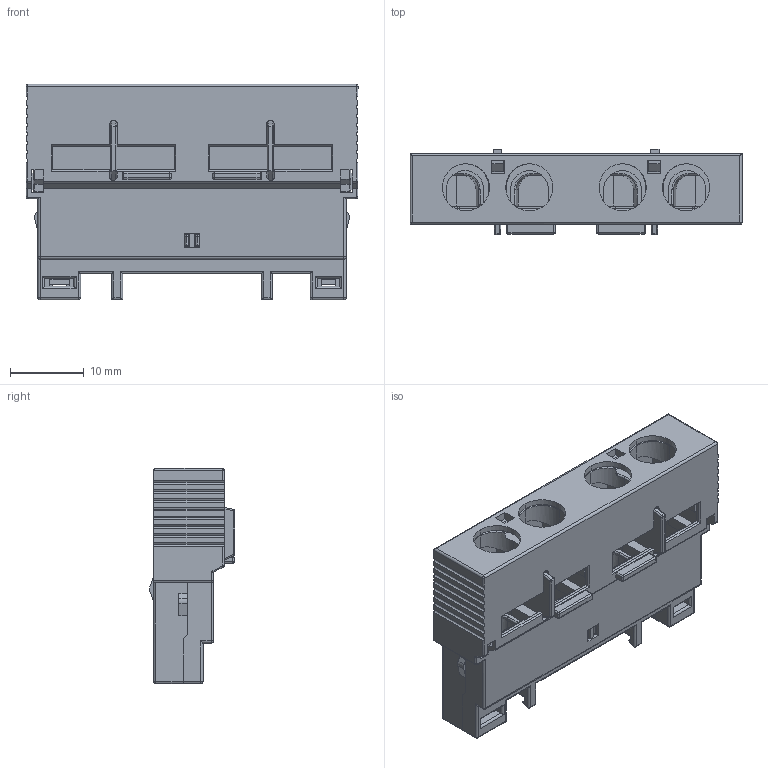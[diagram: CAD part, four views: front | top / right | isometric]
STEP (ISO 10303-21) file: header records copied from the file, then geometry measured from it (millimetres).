
FILE_DESCRIPTION (( 'STEP AP214' ), '1' );
FILE_NAME ('AF.STEP', '2026-01-30T11:51:41', ( '' ), ( '' ), 'SwSTEP 2.0', 'SolidWorks 2024', '' );
FILE_SCHEMA (( 'AUTOMOTIVE_DESIGN' ));
Length unit declared in the file: millimetre
Products named in the file (4): _________2.STEP; AF; _________________1.STEP; AF.STEP
Assembly tree (3 placements, depth 3):
  AF
    AF.STEP
      _________2.STEP
      _________________1.STEP
Bounding box: 45 x 11.59 x 29.2 mm (x, y, z)
Volume: 3819.7 mm3; surface area: 10703.3 mm2
Topology: 2 solids, 2 shells, 1646 faces, 4430 edges, 2653 vertices
Faces by surface type: plane 845, cylinder 646, sphere 131, torus 18, bspline 6
Entity records: 50513 total; most frequent: CARTESIAN_POINT 10235, ORIENTED_EDGE 8590, DIRECTION 8239, EDGE_CURVE 4295, LINE 3079, VECTOR 3079, VERTEX_POINT 2653, AXIS2_PLACEMENT_3D 2580
